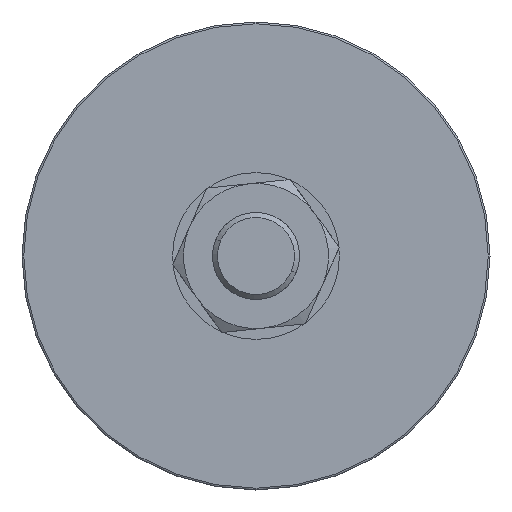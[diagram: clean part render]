
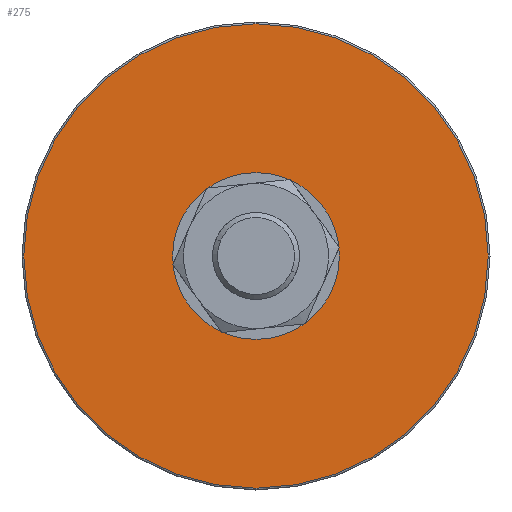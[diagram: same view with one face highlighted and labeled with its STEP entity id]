
A CAD part, left-side view. The second image highlights one B-rep face of the part: STEP entity #275.
In plain terms, the highlighted planar face has unit normal (-1, 0, 0).
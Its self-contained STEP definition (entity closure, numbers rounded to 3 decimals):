
#33 = EDGE_CURVE ( 'NONE', #8826, #17509, #14183, .T. ) ;
#275 = ADVANCED_FACE ( 'NONE', ( #571, #19378 ), #5048, .F. ) ;
#571 = FACE_BOUND ( 'NONE', #18506, .T. ) ;
#4074 = AXIS2_PLACEMENT_3D ( 'NONE', #8774, #21424, #12130 ) ;
#4527 = DIRECTION ( 'NONE',  ( -1., 0., 0. ) ) ;
#5048 = PLANE ( 'NONE',  #4074 ) ;
#5112 = CIRCLE ( 'NONE', #12125, 40.5 ) ;
#5863 = DIRECTION ( 'NONE',  ( -1., 0., 0. ) ) ;
#6121 = CIRCLE ( 'NONE', #16167, 128. ) ;
#6395 = EDGE_CURVE ( 'NONE', #10591, #21280, #6121, .T. ) ;
#8774 = CARTESIAN_POINT ( 'NONE',  ( 0., 0., 0. ) ) ;
#8826 = VERTEX_POINT ( 'NONE', #23223 ) ;
#8956 = DIRECTION ( 'NONE',  ( -1., 0., 0. ) ) ;
#9612 = ORIENTED_EDGE ( 'NONE', *, *, #18012, .F. ) ;
#10465 = CARTESIAN_POINT ( 'NONE',  ( 0., 0., 0. ) ) ;
#10591 = VERTEX_POINT ( 'NONE', #14986 ) ;
#11020 = CARTESIAN_POINT ( 'NONE',  ( 0., 0., 0. ) ) ;
#11154 = ORIENTED_EDGE ( 'NONE', *, *, #12162, .T. ) ;
#11411 = EDGE_LOOP ( 'NONE', ( #11154, #12089 ) ) ;
#12089 = ORIENTED_EDGE ( 'NONE', *, *, #6395, .T. ) ;
#12125 = AXIS2_PLACEMENT_3D ( 'NONE', #10465, #23312, #14596 ) ;
#12130 = DIRECTION ( 'NONE',  ( 0., 0., -1. ) ) ;
#12162 = EDGE_CURVE ( 'NONE', #21280, #10591, #18384, .T. ) ;
#12704 = CARTESIAN_POINT ( 'NONE',  ( 0., 0., 0. ) ) ;
#13136 = CARTESIAN_POINT ( 'NONE',  ( 0., 0., 128. ) ) ;
#13390 = AXIS2_PLACEMENT_3D ( 'NONE', #11020, #5863, #20454 ) ;
#14183 = CIRCLE ( 'NONE', #13390, 40.5 ) ;
#14596 = DIRECTION ( 'NONE',  ( 0., 0., 1. ) ) ;
#14986 = CARTESIAN_POINT ( 'NONE',  ( 0., 0., -128. ) ) ;
#15075 = CARTESIAN_POINT ( 'NONE',  ( 0., 0., 40.5 ) ) ;
#16167 = AXIS2_PLACEMENT_3D ( 'NONE', #12704, #8956, #16272 ) ;
#16272 = DIRECTION ( 'NONE',  ( 0., 0., 1. ) ) ;
#17509 = VERTEX_POINT ( 'NONE', #15075 ) ;
#18012 = EDGE_CURVE ( 'NONE', #17509, #8826, #5112, .T. ) ;
#18384 = CIRCLE ( 'NONE', #19998, 128. ) ;
#18506 = EDGE_LOOP ( 'NONE', ( #9612, #22328 ) ) ;
#19378 = FACE_OUTER_BOUND ( 'NONE', #11411, .T. ) ;
#19998 = AXIS2_PLACEMENT_3D ( 'NONE', #20631, #4527, #22732 ) ;
#20454 = DIRECTION ( 'NONE',  ( 0., 0., 1. ) ) ;
#20631 = CARTESIAN_POINT ( 'NONE',  ( 0., 0., 0. ) ) ;
#21280 = VERTEX_POINT ( 'NONE', #13136 ) ;
#21424 = DIRECTION ( 'NONE',  ( 1., 0., 0. ) ) ;
#22328 = ORIENTED_EDGE ( 'NONE', *, *, #33, .F. ) ;
#22732 = DIRECTION ( 'NONE',  ( 0., 0., 1. ) ) ;
#23223 = CARTESIAN_POINT ( 'NONE',  ( 0., 0., -40.5 ) ) ;
#23312 = DIRECTION ( 'NONE',  ( -1., 0., 0. ) ) ;
